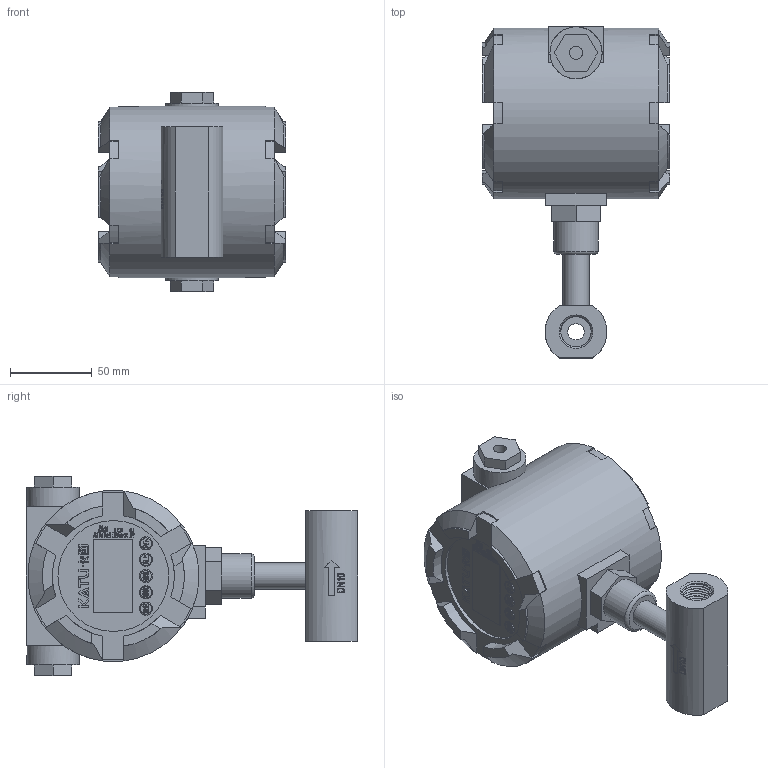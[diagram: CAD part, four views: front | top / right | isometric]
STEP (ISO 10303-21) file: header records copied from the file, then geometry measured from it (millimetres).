
FILE_DESCRIPTION( (''), '2;1');
FILE_NAME( 'QTKC_DN10_female-thread_Ex.step', '2024-10-14T13:57:57+08:00', (''), (''), '', '', '');
FILE_SCHEMA (('AUTOMOTIVE_DESIGN { 1 0 10303 214 3 1 1 1 }'));
Length unit declared in the file: millimetre
Products named in the file (1): QTKC DN10_female-thread_Ex
Bounding box: 115 x 203.48 x 122.4 mm (x, y, z)
Volume: 1015432.2 mm3; surface area: 95849.8 mm2
Topology: 4 solids, 6 shells, 1427 faces, 3903 edges, 2595 vertices
Faces by surface type: plane 782, extrusion 513, cylinder 103, cone 15, bspline 8, torus 6
Full cylindrical faces by diameter (mm): 3.3 x1, 8 x2, 16 x1, 18.5 x1, 18.631 x16, 20 x2, 27 x1, 32 x2, 68 x1, 105 x1
Entity records: 50770 total; most frequent: CARTESIAN_POINT 17212, ORIENTED_EDGE 7642, DIRECTION 5164, EDGE_CURVE 3821, VECTOR 2952, VERTEX_POINT 2553, LINE 2439, B_SPLINE_CURVE_WITH_KNOTS 1680
